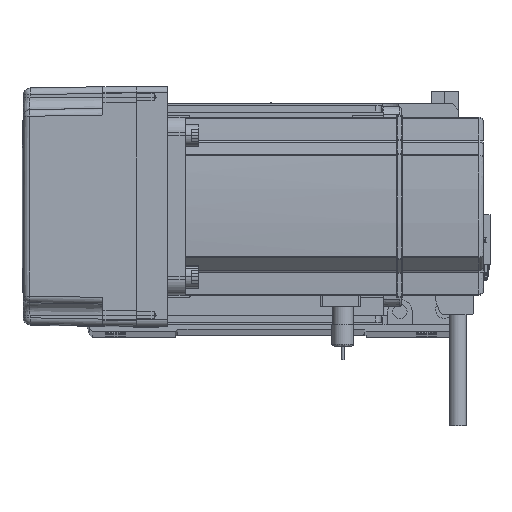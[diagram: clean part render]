
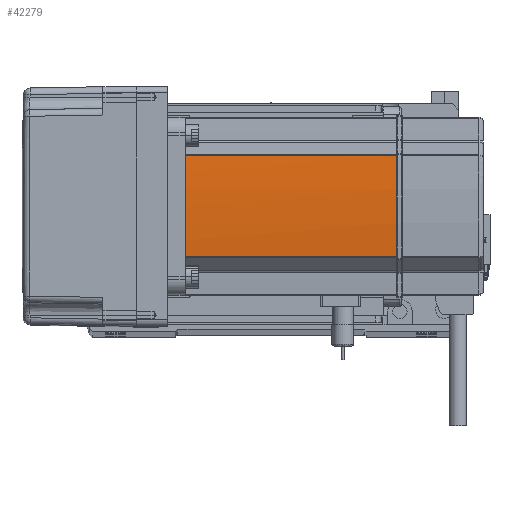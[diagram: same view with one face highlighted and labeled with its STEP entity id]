
A CAD part, top view. The second image highlights one B-rep face of the part: STEP entity #42279.
In plain terms, the highlighted cylindrical face has radius 270 mm (diameter 540 mm), a partial arc.
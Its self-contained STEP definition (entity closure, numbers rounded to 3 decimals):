
#1344 = CARTESIAN_POINT ( 'NONE',  ( 39.042, 22.724, 134. ) ) ;
#4476 = DIRECTION ( 'NONE',  ( -1., 0., 0. ) ) ;
#4762 = DIRECTION ( 'NONE',  ( -1., 0., 0. ) ) ;
#4769 = EDGE_CURVE ( 'NONE', #26571, #24908, #34442, .T. ) ;
#4928 = EDGE_CURVE ( 'NONE', #19471, #24908, #22711, .T. ) ;
#5119 = VERTEX_POINT ( 'NONE', #51385 ) ;
#5221 = ORIENTED_EDGE ( 'NONE', *, *, #4769, .F. ) ;
#5303 = EDGE_CURVE ( 'NONE', #5119, #16169, #45951, .T. ) ;
#6018 = CARTESIAN_POINT ( 'NONE',  ( 40., 0.042, 134. ) ) ;
#7419 = ORIENTED_EDGE ( 'NONE', *, *, #5303, .F. ) ;
#8016 = CARTESIAN_POINT ( 'NONE',  ( -230., 0., 134. ) ) ;
#10377 = VECTOR ( 'NONE', #23086, 1000. ) ;
#11717 = CARTESIAN_POINT ( 'NONE',  ( -230., 0., 58. ) ) ;
#12893 = DIRECTION ( 'NONE',  ( 0., 0., -1. ) ) ;
#13852 = ORIENTED_EDGE ( 'NONE', *, *, #48439, .T. ) ;
#16149 = CARTESIAN_POINT ( 'NONE',  ( 40., -0.042, 134. ) ) ;
#16169 = VERTEX_POINT ( 'NONE', #27836 ) ;
#16272 = CARTESIAN_POINT ( 'NONE',  ( -230., 0., 39. ) ) ;
#17385 = ORIENTED_EDGE ( 'NONE', *, *, #40250, .T. ) ;
#17991 = CARTESIAN_POINT ( 'NONE',  ( 39.042, -22.724, 134. ) ) ;
#19471 = VERTEX_POINT ( 'NONE', #1344 ) ;
#19867 = CARTESIAN_POINT ( 'NONE',  ( 40., -0.127, 134. ) ) ;
#21465 = AXIS2_PLACEMENT_3D ( 'NONE', #16272, #57504, #25066 ) ;
#21981 = ORIENTED_EDGE ( 'NONE', *, *, #4928, .T. ) ;
#22160 = AXIS2_PLACEMENT_3D ( 'NONE', #32104, #27872, #4476 ) ;
#22711 = CIRCLE ( 'NONE', #47619, 270. ) ;
#23086 = DIRECTION ( 'NONE',  ( 0., 0., 1. ) ) ;
#24908 = VERTEX_POINT ( 'NONE', #25319 ) ;
#25066 = DIRECTION ( 'NONE',  ( -1., 0., 0. ) ) ;
#25319 = CARTESIAN_POINT ( 'NONE',  ( 40., 0.127, 134. ) ) ;
#26053 = CARTESIAN_POINT ( 'NONE',  ( 39.042, -22.724, 58. ) ) ;
#26571 = VERTEX_POINT ( 'NONE', #45233 ) ;
#27154 = DIRECTION ( 'NONE',  ( -1., 0., 0. ) ) ;
#27521 = EDGE_LOOP ( 'NONE', ( #17385, #7419, #13852, #21981, #5221, #40054 ) ) ;
#27836 = CARTESIAN_POINT ( 'NONE',  ( 39.042, -22.724, 39. ) ) ;
#27838 = LINE ( 'NONE', #27976, #10377 ) ;
#27872 = DIRECTION ( 'NONE',  ( 0., 0., -1. ) ) ;
#27976 = CARTESIAN_POINT ( 'NONE',  ( 39.042, 22.724, 58. ) ) ;
#32104 = CARTESIAN_POINT ( 'NONE',  ( -230., 0., 134. ) ) ;
#33063 = LINE ( 'NONE', #26053, #47719 ) ;
#34442 = B_SPLINE_CURVE_WITH_KNOTS ( 'NONE', 3,
 ( #19867, #16149, #6018, #38548 ),
 .UNSPECIFIED., .F., .F.,
 ( 4, 4 ),
 ( 0., 1. ),
 .UNSPECIFIED. ) ;
#37312 = DIRECTION ( 'NONE',  ( 0., 0., -1. ) ) ;
#38548 = CARTESIAN_POINT ( 'NONE',  ( 40., 0.127, 134. ) ) ;
#40054 = ORIENTED_EDGE ( 'NONE', *, *, #50376, .T. ) ;
#40250 = EDGE_CURVE ( 'NONE', #40878, #16169, #33063, .T. ) ;
#40878 = VERTEX_POINT ( 'NONE', #17991 ) ;
#42279 = ADVANCED_FACE ( 'NONE', ( #43734 ), #48911, .T. ) ;
#42870 = CIRCLE ( 'NONE', #22160, 270. ) ;
#43734 = FACE_OUTER_BOUND ( 'NONE', #27521, .T. ) ;
#44785 = DIRECTION ( 'NONE',  ( 0., 0., -1. ) ) ;
#45233 = CARTESIAN_POINT ( 'NONE',  ( 40., -0.127, 134. ) ) ;
#45615 = AXIS2_PLACEMENT_3D ( 'NONE', #11717, #37312, #4762 ) ;
#45951 = CIRCLE ( 'NONE', #21465, 270. ) ;
#47619 = AXIS2_PLACEMENT_3D ( 'NONE', #8016, #12893, #27154 ) ;
#47719 = VECTOR ( 'NONE', #44785, 1000. ) ;
#48439 = EDGE_CURVE ( 'NONE', #5119, #19471, #27838, .T. ) ;
#48911 = CYLINDRICAL_SURFACE ( 'NONE', #45615, 270. ) ;
#50376 = EDGE_CURVE ( 'NONE', #26571, #40878, #42870, .T. ) ;
#51385 = CARTESIAN_POINT ( 'NONE',  ( 39.042, 22.724, 39. ) ) ;
#57504 = DIRECTION ( 'NONE',  ( 0., 0., -1. ) ) ;
